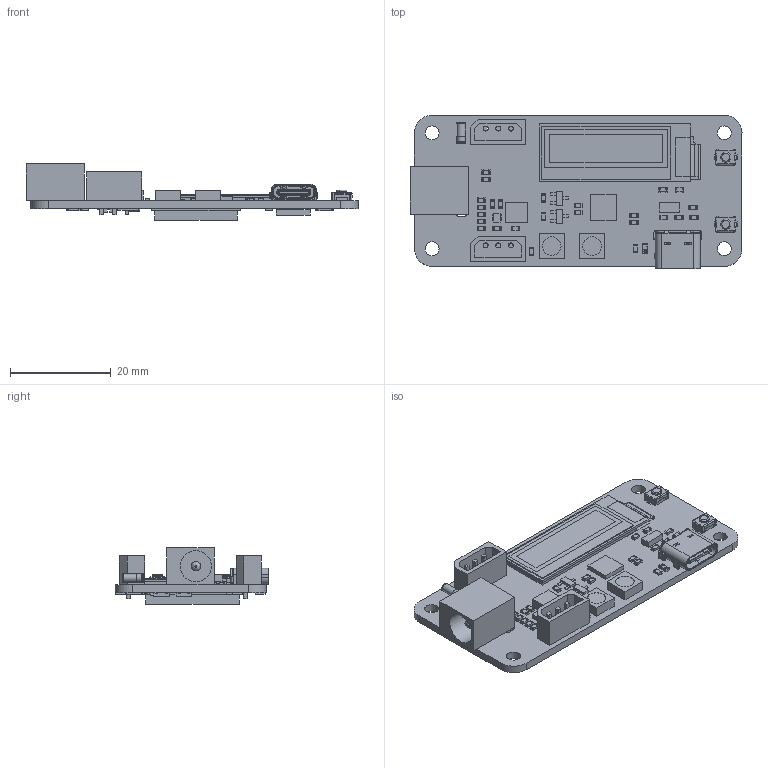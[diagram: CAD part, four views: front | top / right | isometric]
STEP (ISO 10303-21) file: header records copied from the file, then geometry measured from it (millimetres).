
FILE_DESCRIPTION(/* description */ (''),/* implementation_level */ '2;1');
FILE_NAME(/* name */ 'E:/云同步/我的坚果云/项目/SERVO DRIVER WITH ESP32/模型/Servo Driver with ESP32 v4.step',/* time_stamp */ '2022-01-21T19:19:16+08:00',/* author */ (''),/* organization */ (''),/* preprocessor_version */ 'ST-DEVELOPER v18.1',/* originating_system */ 'Autodesk Translation Framework v10.10.0.1391',/* authorisation */ '');
FILE_SCHEMA (('AUTOMOTIVE_DESIGN { 1 0 10303 214 3 1 1 }'));
Products named in the file (174): Servo Driver with ESP32; Board; C23; C22; U5; 731907024; Extruded (4); 490332176; Extruded (5); R25; R24; R23; R22; R20; L3; 731907664; Extruded (8); C21; C20; C19; C18; C17; 490327952; Extruded (9); 490327824; Extruded (10); C16; C14; R16; R3; D2; 731906384; Extruded (12); 731906512; Extruded (11); R19; R18; C11; C10; C9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
Assembly tree (351 placements, depth 4):
  Servo Driver with ESP32
    Board
    C23
      490328720  x2
        Extruded
      731907408
        Extruded (1)
    C22
      490325008  x2
        Extruded (2)
      490325136
        Extruded (3)
    U5
      731907024
        Extruded (4)
      490332176  x6
        Extruded (5)
    R25
      490324624  x2
        Extruded (6)
      490324752
        Extruded (7)
    R24
      490324624  x2
        Extruded (6)
      490324752
        Extruded (7)
    R23
      490324624  x2
        Extruded (6)
      490324752
        Extruded (7)
    R22
      490324624  x2
        Extruded (6)
      490324752
        Extruded (7)
    R20
      490325008  x2
        Extruded (2)
      490325136
        Extruded (3)
    L3
      731907664
        Extruded (8)
    C21
      490324624  x2
        Extruded (6)
      490324752
        Extruded (7)
    C20
      490327952
        Extruded (9)
      490327824  x2
        Extruded (10)
    C19
      490324624  x2
        Extruded (6)
      490324752
        Extruded (7)
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Bounding box: 65.89 x 30.51 x 11.2 mm (x, y, z)
Volume: 5690.6 mm3; surface area: 11141.8 mm2
Topology: 253 solids, 265 shells, 3853 faces, 9787 edges, 6425 vertices
Faces by surface type: plane 3117, cylinder 672, cone 30, sphere 18, bspline 14, torus 2
Full cylindrical faces by diameter (mm): 0.5 x2, 0.6 x4, 0.762 x2, 1 x6, 1.6 x1, 1.7 x3, 1.87 x1, 2 x2, 2.75 x4, 3.7 x2, 6.2 x1
Entity records: 90956 total; most frequent: CARTESIAN_POINT 16544, DIRECTION 14927, ORIENTED_EDGE 14656, EDGE_CURVE 7328, LINE 5837, VECTOR 5837, VERTEX_POINT 4815, AXIS2_PLACEMENT_3D 4545
